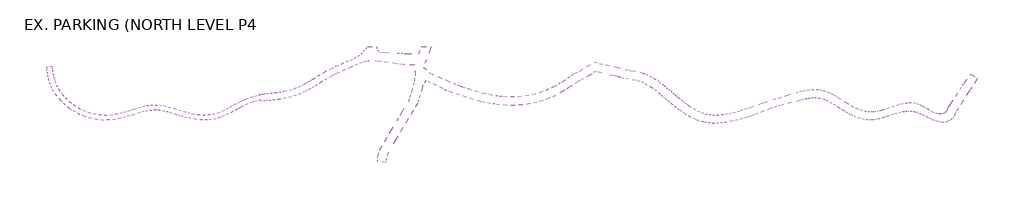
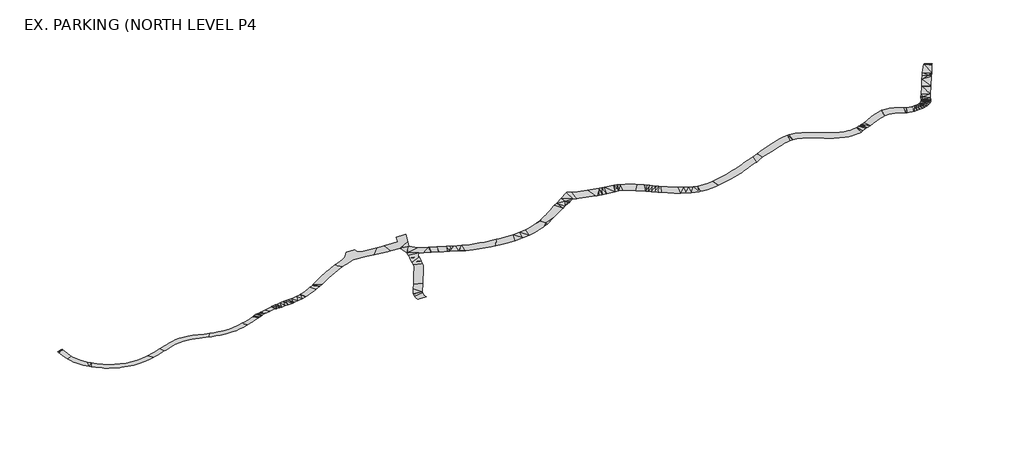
# One storey: 1 proxy.
"""IFC4 building model written with IfcOpenShell, lengths in millimetres."""

from ifc_helpers import new_model, si_unit, origin, place, context, project, spatial, triangles, element, save

model = new_model("IFC4")

# Units and contexts
model_context = context("Model", 3, world=origin())
ifc_project = project(units=[si_unit("LENGTHUNIT", "METRE", prefix="MILLI")], contexts=[model_context])

# Site, building, storey
site = spatial("IfcSite", under=ifc_project)
building = spatial("IfcBuilding", under=site)
storey = spatial("IfcBuildingStorey", under=building, Name="EX. PARKING (NORTH LEVEL P4", Elevation=287121.6)

# Proxy
placement = place(None, origin())
element("IfcBuildingElementProxy", 1, Name="Building Element Proxy", at=placement, inside=storey, context=model_context, shape_type="Tessellation", body=[
    triangles([(-40043.6302002, 180188.1829102, 292488.1375488), (-39385.3587524, 180359.8561523, 292484.3238281), (-38733.0264771, 180552.8862305, 292481.0310059), (-38059.2024902, 180767.291748, 292477.9056152), (-37790.3189026, 180852.8493164, 292482.0728027), (-36843.869696, 181140.8131348, 292496.3975098), (-36241.9715515, 181303.2590332, 292504.9737305), (-35633.1668518, 181437.539209, 292512.8430176), (-34903.441626, 181543.5606445, 292520.8425293), (-34166.4168457, 181566.6104004, 292526.7026367), (-33738.2406555, 181531.5427734, 292528.8234375), (-33431.4942627, 181506.4280273, 292527.651416), (-32708.0430725, 181363.7390625, 292522.5354492), (-32095.3153564, 181209.013623, 292517.2334473), (-31488.5895996, 181032.187207, 292511.3175293), (-30533.1455933, 180730.6614258, 292501.3646484), (-30001.2594543, 180569.0712891, 292495.9882324), (-29574.5203857, 180439.4233887, 292501.2344238), (-28908.4191833, 180258.5786133, 292509.717627), (-28235.3742187, 180105.6205078, 292518.703125), (-27212.7157104, 179937.6121582, 292533.2696777), (-26179.3811096, 179858.3611816, 292549.2873047), (-25431.0035339, 179857.2077637, 292561.6772461), (-24685.7629761, 179925.6873047, 292574.9973633), (-23950.1218323, 180063.1858887, 292589.1360352), (-23230.4611084, 180268.5128906, 292603.9816406), (-23048.2861816, 180339.3922852, 292608.0), (-22533.0199585, 180539.882373, 292516.0428223), (-21782.3122925, 180900.8649902, 292374.2096191), (-21049.2035522, 181296.3943359, 292230.7765137), (-20203.1365906, 181776.5510742, 292062.5263184), (-19915.5890259, 181929.9370605, 292006.4739258), (-19902.8479431, 181936.7459473, 292007.0506348), (-19796.0707397, 181993.6913086, 291998.4), (-19394.704541, 182207.7991699, 291936.5805176), (-19344.793634, 182234.4208008, 291927.2787598), (-18495.4640808, 182621.5227539, 291781.5760254), (-17613.0923584, 182925.8762695, 291649.1189941), (-17427.3420685, 182978.170752, 291623.5205566), (-16997.1962311, 183099.2424316, 291587.8948242), (-16377.768924, 183259.5303223, 291538.9117676), (-16291.9171875, 183192.6692871, 291546.5578125), (-16190.8652161, 183152.3368652, 291549.3483398), (-16079.7766479, 183133.5845215, 291548.2693359), (-15967.135849, 183131.5195312, 291544.4184082), (-15566.7079651, 183156.5970703, 291525.4986328), (-15166.8858582, 183189.9717773, 291505.2394043), (-14524.2774078, 183246.3590332, 291472.2367676), (-13882.6363403, 183312.8666016, 291437.6342285), (-13041.2063049, 183421.2878906, 291388.8), (-12922.0263702, 183436.635791, 291388.8), (-12904.9041595, 183439.7611816, 291388.8), (-12839.9127777, 183451.5744141, 291378.9959473), (-12749.3892334, 183468.0571289, 291374.1032227), (-11969.1240692, 183610.0577637, 291346.8490723), (-11026.4967224, 183832.6488281, 291305.8283203), (-10200.7261963, 184088.2053223, 291260.2869141), (-9395.1869934, 184401.7675781, 291205.6483887), (-8613.9451447, 184771.7356934, 291142.2290039), (-8186.9322556, 184995.7592285, 291104.0917969), (-7765.446936, 185230.0146973, 291064.373291), (-7719.1846436, 185256.9897949, 291059.8154297), (-7214.2480225, 185551.3346191, 290982.2945801), (-6668.0615936, 185881.0819336, 290896.457959), (-5929.6863144, 186333.9473145, 290779.2), (-5866.8314301, 186372.5124023, 290779.2), (-5652.568927, 186499.9836914, 290779.2), (-5059.0679443, 186853.115625, 290779.2), (-3981.0974052, 187446.0282715, 290779.2), (-3623.2881409, 187623.9522949, 290779.2), (-3259.0908943, 187805.076123, 290779.2), (-2879.5140633, 187993.8273926, 290779.2), (-1755.5605751, 188505.8147461, 290779.2), (-796.8303595, 188912.2085449, 290779.2), (-618.4324551, 188987.8318359, 290767.0146973), (246.1494194, 189337.2430664, 290708.7670898), (1114.3149776, 189677.6315918, 290650.7241211), (1480.2100857, 189836.7474609, 290625.572168), (1864.9841286, 189942.3224121, 290601.8712891), (2260.8461575, 189992.1984375, 290580.0679688), (4324.7714859, 189889.860498, 290482.5297363), (5526.055719, 189714.5781738, 290430.886377), (7054.4728912, 189491.540625, 290414.1246094), (7870.7434158, 189372.4223145, 290407.9482422), (8360.1652863, 189343.1031738, 290401.232373), (10079.8428772, 189240.0583008, 290407.8180176), (10218.0867645, 187459.4600098, 290533.8568359), (10084.1972626, 186720.1190918, 290586.281543), (10047.5774048, 186517.898877, 290595.7879395), (9870.3068298, 185885.5653809, 290629.7021484), (9504.5605499, 184561.2555176, 290700.3396973), (9488.9376663, 184507.2495117, 290703.2790527), (9280.0027451, 183784.8936035, 290779.2), (9124.4628204, 183247.1403809, 290874.5430176), (9034.6799286, 183096.0984375, 290903.7691406), (7566.8404541, 180626.8166016, 291388.8), (7074.4501602, 179798.4950684, 291554.7805664), (5735.400499, 177545.8697754, 291998.4), (4914.6825714, 176165.2098633, 292284.7453125), (4069.1144165, 174742.7478516, 292495.0022461), (3804.9854805, 173734.9209961, 292646.3976562), (3717.1780495, 173399.8716797, 292676.9818359), (3713.0611496, 172751.5019531, 292735.434082), (5223.9235794, 172652.1963867, 292737.7595215), (5196.7426804, 173341.252002, 292675.7726074), (5418.6663437, 174038.7536133, 292611.9439453), (5515.0610413, 174341.7118652, 292566.5513672), (5543.2046722, 174430.171582, 292549.6035645), (7137.7858292, 177082.9957031, 291998.4), (8029.187233, 178565.9749512, 291705.8225098), (8978.3194153, 180145.0041504, 291388.8), (9788.3874115, 181492.6800293, 291123.5882813), (10532.5373383, 182730.6881836, 290883.6215332), (10709.1195831, 183317.573291, 290779.2), (10945.9481506, 184104.7252441, 290696.1725098), (11349.3293427, 185453.2010742, 290554.0230469), (11377.1764801, 185583.7233398, 290540.6099121), (11432.3859009, 185842.4982422, 290527.8851074), (11907.2976105, 186618.0043945, 290469.2654297), (12625.2689026, 186295.252002, 290433.1001953), (13748.5294098, 185790.2967773, 290446.3272949), (14833.1922729, 185239.0001953, 290465.2098633), (15548.1463074, 184875.6177246, 290446.7737793), (16160.0659332, 184670.160498, 290422.0869141), (16464.4764221, 184567.9341797, 290399.5580566), (17788.1653931, 184123.4589844, 290270.152002), (18673.89505, 183831.848877, 290183.3293945), (18753.8448212, 183805.5249023, 290181.9527344), (18875.7304047, 183765.3971191, 290169.6), (20032.572583, 183384.5087402, 290169.6), (21496.5367126, 182991.9373535, 290169.6), (21998.3014343, 182889.3203613, 290169.6), (22981.4879333, 182688.272168, 290169.6), (23736.6976501, 182580.7252441, 290169.6), (24482.033551, 182474.573584, 290138.8483887), (25836.7787659, 182374.9517578, 290085.1214355), (27134.4879272, 182374.3192383, 290035.9151367), (27195.181897, 182374.3006348, 290035.1523926), (28550.0224548, 182472.5830078, 290015.0233887), (29894.1055298, 182669.3151855, 289991.9550293), (30935.1861694, 182900.1476074, 289971.6213867), (31689.1471252, 183119.9109375, 289955.250293), (31958.9539124, 183198.547998, 289945.799707), (32961.0276306, 183563.2141113, 289909.504248), (33269.1669617, 183698.7593262, 289897.9328613), (33937.1215393, 183992.6018555, 289838.8294922), (34018.3514648, 184040.6919434, 289832.5787109), (35660.600061, 185012.8000488, 289864.8), (36364.5059326, 185429.4629883, 289864.8), (36790.4845825, 185681.6150391, 289864.8), (36902.6358765, 185747.9923828, 289864.8), (38055.3841187, 186430.3507324, 289864.8), (38365.2559021, 186613.7813965, 289864.8), (38871.4761658, 186913.4282227, 289864.8), (39975.1785645, 187566.7464844, 289776.7123535), (40057.8060791, 187615.655127, 289675.8440918), (40318.2599487, 187769.8224609, 289762.7783203), (41008.8410522, 188178.6161133, 289769.0849121), (41651.9599365, 188022.8674805, 289693.5546387), (42010.8171021, 187935.970459, 289681.3879395), (44711.6382935, 187281.9080566, 289600.518457), (44979.1196411, 187217.1492188, 289595.2536621), (45271.4692383, 187146.3442383, 289592.5561523), (45813.2826782, 187015.1336426, 289612.1642578), (46542.5869995, 186890.1738281, 289641.7066406), (47956.8216064, 186605.9121094, 289696.4567871), (48512.5876831, 186494.197998, 289721.2552734), (49173.965918, 186209.0619141, 289742.1098145), (49176.0355591, 186208.1689453, 289742.1098145), (49822.0007813, 185884.6166016, 289739.2634766), (50634.9, 185387.493457, 289730.4826172), (50855.356311, 185228.0985352, 289726.6688965), (51407.0575195, 184829.2019531, 289755.3741211), (52133.8782715, 184213.0349121, 289791.1858887), (52461.7047729, 183915.7879395, 289806.9058594), (52784.9920166, 183613.6110352, 289822.2165527), (53193.8554321, 183270.7668457, 289842.4385742), (53604.6164063, 182930.1922852, 289862.8466309), (53643.8512207, 182898.1570313, 289864.8), (54096.046875, 182528.8586426, 289864.8), (54218.3696411, 182428.9577637, 289868.9299805), (54841.3595215, 181939.2574219, 289889.7845215), (55255.2319336, 181627.3322754, 289903.476709), (55675.58302, 181324.1879883, 289917.2433105), (56094.3249023, 181037.6380371, 289930.7680664), (56521.4941772, 180763.8314941, 289944.3486328), (57265.8022339, 180334.5181641, 289967.4728027), (58039.9828857, 179961.7595215, 289990.6899902), (58629.4538818, 179731.0015137, 290007.7680176), (59235.6494385, 179548.668457, 290024.6786133), (59413.6757812, 179510.4754395, 290029.4783203), (59854.602356, 179415.9137695, 290048.2864746), (60569.8377686, 179331.5282227, 290079.2055176), (61289.4822144, 179303.2508789, 290110.645459), (62009.1359619, 179331.2491699, 290142.4202637), (62618.4197021, 179402.7052734, 290169.6), (63265.5988037, 179478.5890137, 290169.6), (64506.834668, 179722.9833984, 290169.6), (65274.3320068, 179907.8651367, 290169.6), (66037.7179688, 180109.0621582, 290169.6), (66809.4755127, 180324.5094727, 290169.6), (67208.9069458, 180439.4791992, 290169.6), (67579.4889771, 180546.1331543, 290169.6), (68123.5162354, 180768.6870117, 290169.6), (68668.7480713, 180988.2643066, 290169.6), (69758.0490234, 181416.721875, 290169.6), (70856.475, 181821.2181152, 290169.6), (71091.9629517, 181899.1668457, 290169.6), (71957.5938354, 182185.7540039, 290296.6992188), (72415.4031006, 182317.0576172, 290364.4532227), (73072.5257813, 182505.529834, 290410.7387695), (74508.3079102, 182875.0514648, 290513.4487793), (75945.0713745, 183240.722168, 290616.3820312), (76527.9520752, 183377.7556641, 290658.5748047), (77115.1487915, 183494.9206055, 290701.8279785), (77549.6618042, 183562.190918, 290734.5515625), (77987.0630127, 183606.9881836, 290768.3541504), (78122.0780273, 183609.4252441, 290779.2), (78690.5549561, 183619.6757812, 290779.2), (79388.7914063, 183532.9089844, 290779.2), (80062.1549561, 183344.4925781, 290779.2), (80246.4599854, 183268.5530273, 290779.2), (80708.6643311, 183078.1274414, 290779.2), (81355.40625, 182740.3062012, 290779.2), (81981.9912598, 182366.4313477, 290779.2), (82744.828418, 181874.2381348, 290779.2), (83291.3625, 181523.9897461, 290779.2), (83509.1724609, 181384.4075684, 290779.2), (84029.2709473, 181068.0361816, 290779.2), (84561.2570801, 180772.0914551, 290779.2), (84910.7799316, 180609.0502441, 290779.2), (85377.7932861, 180391.2030762, 290779.2), (86229.9180176, 180098.4581543, 290779.2), (86231.2760742, 180098.1418945, 290779.2), (86861.1725098, 179949.7788574, 290779.2), (87505.1890137, 179873.4300293, 290779.2), (87924.2611084, 179871.4580566, 290779.2), (88153.7168701, 179870.3790527, 290779.2), (88390.7256592, 179896.2193359, 290779.2), (88798.4217041, 179940.6817383, 290779.2), (89191.9139648, 180022.2767578, 290779.2), (89505.9692139, 180087.407666, 290861.2229004), (90164.7569092, 180270.15, 291032.2450195), (90202.289502, 180280.5493652, 291034.8309082), (90347.5085449, 180326.8535156, 291044.2256836), (90785.4911133, 180466.5101074, 291026.5895508), (91049.5959229, 180550.7096191, 291015.9483398), (91167.960791, 180589.5537598, 291011.0184082), (91894.5862061, 180828.0322266, 291098.5479492), (92466.8396484, 180997.6962891, 291167.8460449), (93045.7531494, 181143.0455566, 291238.5394043), (93778.7688721, 181274.5352051, 291329.1571289), (94252.4608887, 181309.3423828, 291388.8), (94521.4770264, 181329.1179199, 291388.8), (95003.3080811, 181315.7419922, 291388.8), (95480.5812744, 181248.3600586, 291388.8), (95947.2783691, 181127.8278809, 291388.8), (96484.5106934, 180922.0916016, 291388.8), (96644.0451416, 180845.872998, 291388.8), (97003.5766846, 180674.0881348, 291388.8), (97177.9195313, 180582.8192871, 291388.8), (97524.1774658, 180401.5466309, 291388.8), (97775.9574463, 180271.2476074, 291388.8), (98046.0618896, 180131.4793945, 291435.4576172), (98448.01875, 179941.2770508, 291504.5696777), (98741.452002, 179823.1633301, 291554.6317383), (98860.5331055, 179775.2406738, 291587.3739258), (99267.9221924, 179645.5183594, 291695.6463867), (99685.8501709, 179555.3843262, 291802.0770996), (100134.7343994, 179473.2125977, 291914.7771973), (100500.5353271, 179481.8632324, 291998.4), (100590.9577148, 179484.0026367, 291998.4), (101035.4608154, 179587.3265625, 291998.4), (101176.7731201, 179652.6621094, 291998.4), (101449.6680908, 179778.8497559, 291998.4), (101816.296875, 180050.5727051, 291998.4), (102120.0271729, 180391.1658691, 291998.4), (102348.1806885, 180786.3975586, 291998.4), (102380.5880127, 180884.5869141, 291998.4), (102491.2138184, 181219.7478516, 292065.9121582), (102742.7612549, 181549.6253906, 292165.2363281), (102947.2510986, 181919.8725586, 292258.7748047), (103729.1940674, 183135.984375, 292591.4242676), (103758.0853271, 183180.9304688, 292608.0), (103835.4759521, 183301.2766113, 292646.3232422), (104821.397168, 184834.6155762, 293217.6), (104931.1300049, 185005.2842285, 293363.1166992), (105042.4534424, 185178.4271484, 293350.5965332), (105127.7226562, 185311.0330078, 293361.9074707), (105221.3634521, 185456.6613281, 293406.8907715), (106077.9065186, 186817.9921875, 293822.2886719), (106087.1989746, 186832.7633789, 293827.2), (106228.5856934, 187057.4752441, 293827.2), (105258.8402344, 187614.7807617, 293827.2), (105122.7369141, 187692.9899414, 293803.4433105), (105050.5831787, 187601.6838867, 293798.7924316), (103971.4676514, 186236.0928223, 293352.2708496), (103691.3917236, 185800.2868652, 293217.6), (103256.9438232, 185124.2537109, 292992.4974609), (102480.9446777, 183916.7739258, 292608.0), (101687.6535645, 182682.3748535, 292152.4929199), (101601.4634766, 182542.6624512, 292101.5006836), (101499.3859863, 182377.2027832, 292041.1136719), (101415.7724854, 182266.8095215, 291998.4), (101282.2178467, 182090.4667969, 291925.9951172), (101254.014917, 182053.2225586, 291922.1069824), (101183.1355225, 181757.9661621, 291916.1166504), (101110.6283203, 181620.932666, 291906.8893066), (101041.1162842, 181489.5732422, 291905.1033691), (100836.8589844, 181264.8799805, 291882.3140625), (100583.1814453, 181097.9878418, 291841.7956055), (100295.9896729, 180999.3706055, 291786.1338867), (100290.9667236, 180998.9613281, 291785.0176758), (99993.3011719, 180975.1860352, 291736.9461914), (99738.3585938, 180978.8695313, 291695.330127), (99485.8530762, 181014.1604004, 291653.4908203), (99074.7618896, 181117.2052734, 291584.5461914), (98678.6744385, 181267.9681641, 291517.1456543), (98289.0610107, 181459.4169434, 291450.0241699), (97936.394165, 181657.3955566, 291388.8), (97910.5259766, 181671.9062988, 291388.8), (97793.9005371, 181742.302002, 291388.8), (97674.8659424, 181814.1487793, 291388.8), (97408.4170898, 181974.9761719, 291388.8), (96902.8386475, 182272.2231445, 291388.8), (96648.8448486, 182408.1032227, 291388.8), (96389.0281494, 182532.5235352, 291388.8), (95859.8139404, 182726.5768066, 291388.8), (95306.6197998, 182834.7748535, 291388.8), (94587.6590332, 182858.3269043, 291388.8), (94511.4218262, 182850.6064453, 291388.8), (93871.9724854, 182785.8848145, 291308.6746582), (93151.6815674, 182638.3589355, 291220.0103027), (92442.9434326, 182442.7243652, 291133.8574219), (91608.8083008, 182173.1408203, 291033.3054199), (90779.3054443, 181889.6046387, 290933.6277832), (90235.1340088, 181715.8478027, 290867.9945801), (90068.5953369, 181669.134375, 290847.7539551), (89952.7140381, 181636.6154297, 290851.7723145), (89822.3964111, 181600.078125, 290856.2929688), (89685.1210693, 181561.5688477, 290846.8609863), (89533.5303223, 181525.2919922, 290835.773291), (89412.7283936, 181496.4007324, 290804.3147461), (89316.5854248, 181476.6251953, 290779.2), (89138.3916504, 181440.0134766, 290779.2), (89135.870874, 181439.6228027, 290779.2), (88587.5601563, 181356.6325195, 290779.2), (88357.0718994, 181346.5494141, 290779.2), (88030.9801758, 181332.2991211, 290779.2), (87474.9769043, 181367.292334, 290779.2), (86925.8476318, 181461.2214844, 290779.2), (86181.9023438, 181676.7618164, 290779.2), (85542.5460205, 181927.6674316, 290779.2), (85460.8951904, 181959.7026855, 290779.2), (84768.9095215, 182307.6256348, 290779.2), (84685.7611084, 182355.8831543, 290779.2), (83691.0125244, 182933.0944336, 290779.2), (83501.6101318, 183043.0040039, 290779.2), (82265.5460449, 183829.7466797, 290779.2), (81774.3202148, 184117.6174805, 290779.2), (81272.6857178, 184386.9033691, 290779.2), (80898.0202148, 184567.115625, 290779.2), (80514.9180176, 184728.6313477, 290779.2), (80060.8341064, 184882.5010254, 290779.2), (79913.5779785, 184932.4142578, 290779.2), (79292.4996094, 185064.3131836, 290779.2), (78805.0316895, 185109.1848633, 290779.2), (78660.2498291, 185122.523584, 290766.9774902), (77900.789209, 185106.0780762, 290706.032373), (77145.5515869, 185024.5016602, 290647.8405762), (76400.1087158, 184878.3524414, 290592.8299805), (75824.3345581, 184742.5653809, 290551.176709), (75252.5787598, 184590.7792969, 290510.4536133), (73300.8234741, 184013.5494141, 290373.5875488), (72222.3172119, 183669.2727539, 290298.8944336), (71361.8953125, 183394.6104492, 290172.2975098), (71343.477832, 183388.4154785, 290169.6), (69229.9975342, 182677.7797852, 290169.6), (68869.1265381, 182552.9687988, 290169.6), (67104.3691406, 181942.5688477, 290169.6), (66454.157666, 181737.0744141, 290169.6), (65802.3602417, 181536.6401367, 290169.6), (65157.6088989, 181347.6842285, 290169.6), (64508.7694336, 181173.2762695, 290169.6), (63873.11521, 181021.6576172, 290169.6), (63232.0148071, 180895.0048828, 290169.6), (62431.7938843, 180782.6210449, 290169.6), (62404.5629883, 180778.8073242, 290168.372168), (61570.4185547, 180729.9172852, 290131.462793), (60967.8553345, 180745.2837891, 290105.0830078), (60369.2407104, 180815.7911133, 290079.2055176), (59779.592981, 180940.8253418, 290054.0535645), (59104.6062744, 181160.160791, 290025.7018066), (58453.5901978, 181442.8040039, 289998.801123), (57708.5845093, 181845.0306152, 289968.4587891), (56994.1025391, 182299.2540527, 289939.772168), (56805.4442871, 182430.4460449, 289932.2749512), (56634.3338013, 182549.4527344, 289926.7125), (56280.192627, 182807.5393066, 289915.1039063), (55924.7445557, 183076.5461426, 289903.3278809), (55573.1706665, 183350.6131348, 289891.5890625), (55044.4959595, 183773.0245605, 289873.8227051), (54777.4890015, 183990.202002, 289864.8), (54519.5233521, 184200.0310547, 289864.8), (54159.4430054, 184518.1697754, 289864.8), (53797.3302246, 184833.9644531, 289864.8), (53434.5709717, 185146.298877, 289864.8), (53068.2165894, 185454.3916992, 289864.8), (52721.4005493, 185736.9977051, 289864.8), (52699.6297852, 185754.7268555, 289863.7209961), (52325.243335, 186047.7880371, 289844.7268066), (51947.2198975, 186329.5382813, 289825.2489258), (51827.3713989, 186413.775, 289818.9609375), (51561.4992554, 186600.6473145, 289823.2397461), (50905.8741577, 187020.6030762, 289831.425293), (50223.3576782, 187395.2778809, 289836.3180176), (49517.0705566, 187722.9416016, 289837.9365234), (49212.9263306, 187851.5663086, 289837.8993164), (49038.0253784, 187925.5524902, 289832.3182617), (48960.1185059, 187957.4203125, 289829.7509766), (48566.1751099, 188118.6197754, 289819.5004395), (48556.6408081, 188122.5265137, 289819.8166992), (46895.0817627, 188378.6783203, 289813.8635742), (46523.5835083, 188492.4202148, 289820.746875), (46138.1326172, 188549.4958008, 289819.016748), (46124.0869629, 188552.714209, 289819.1283691), (44166.425061, 189001.1705566, 289853.8425293), (42659.6565674, 189346.3401855, 289896.0166992), (41666.228833, 189573.9169922, 289927.7356934), (40767.153479, 189779.8765137, 290031.524707), (40761.2887207, 189776.4720703, 290031.4875), (39405.0180176, 188988.8922363, 289942.5068848), (38132.279425, 188249.8303711, 289885.2452637), (37557.4866028, 187984.0605469, 289865.1720703), (37550.5312134, 187979.2422363, 289864.8), (37272.2923828, 187786.7144531, 289864.8), (37213.4029541, 187745.9541504, 289864.8), (37140.1957947, 187695.7804688, 289864.8), (36868.2612305, 187509.3918457, 289864.8), (36307.9117126, 187130.7730957, 289864.8), (36176.2267273, 187041.7924805, 289864.8), (35475.9648193, 186586.6016602, 289864.8), (35122.6747559, 186366.3918457, 289864.8), (34765.9709473, 186151.7630859, 289864.8), (33814.0174255, 185626.232373, 289864.8), (33775.824408, 185605.1545898, 289864.8), (33670.6354797, 185547.0744141, 289866.1952637), (33379.1300171, 185415.1382812, 289870.9205566), (32530.7841248, 185031.1989258, 289894.026123), (31353.5955139, 184607.3736328, 289928.6472656), (30146.4947754, 184278.2774414, 289966.654248), (28917.0884216, 184045.9939453, 290007.7680176), (27673.1294678, 183911.9556152, 290051.765332), (26422.4592957, 183877.0368164, 290098.3671387), (25172.9588196, 183941.460791, 290147.2571777), (24622.2598755, 184003.8197754, 290169.6), (23929.3742615, 184082.3080078, 290169.6), (22695.1984314, 184290.0534668, 290169.6), (21890.5359192, 184470.6191895, 290169.6), (21474.0311096, 184564.083252, 290169.6), (20269.4278931, 184903.5974121, 290169.6), (19251.6748993, 185231.9680664, 290169.6), (19075.4472839, 185288.8204102, 290169.6), (18367.456778, 185543.6327637, 290169.6), (18124.2483673, 185631.1623047, 290169.6), (17894.9879425, 185713.6688965, 290191.7753906), (17776.7044647, 185760.1032715, 290203.0677246), (17332.5536682, 185934.4368164, 290234.3960449), (16730.9671326, 186170.5712402, 290255.7900879), (15576.9433868, 186652.1604492, 290294.3923828), (15299.6719391, 186773.8646484, 290303.1732422), (14262.9538239, 187228.8694336, 290292.0297363), (14053.4724243, 187320.8080078, 290302.6709473), (12537.2382294, 188005.7150391, 290378.9267578), (11482.4840057, 188953.3223145, 290415.4640625), (11988.7833344, 190222.3611328, 290337.4595215), (12877.0512085, 192448.8112793, 290179.4040527), (11208.2042358, 192423.3802734, 290181.8969238), (10746.7858887, 191148.9836426, 290272.3472168), (8270.5835449, 191276.2316895, 290264.3663086), (7724.3343292, 191304.3043945, 290272.1983887), (7029.5174377, 191340.004541, 290284.439502), (4173.6248978, 191486.7676758, 290419.1847656), (3627.2224937, 191824.3098633, 290431.2398438), (3576.6642426, 192444.8487305, 290406.2367188), (2056.6369652, 192477.0700195, 290479.9810547), (1725.6718472, 192054.1190918, 290515.1044922), (1366.6001598, 191654.7760254, 290550.5813965), (891.9951902, 191207.7335449, 290593.8717773), (367.2755834, 190820.7432129, 290636.9947266), (-200.0080134, 190499.3674805, 290679.2991211), (-926.3192579, 190170.7921875, 290729.7890625), (-1659.5389652, 189874.4195801, 290779.2), (-1665.3931137, 189872.0569336, 290779.2), (-2538.1142624, 189493.0847168, 290779.2), (-3402.38302, 189095.2113281, 290779.2), (-3474.5905312, 189059.306543, 290779.2), (-4193.3896797, 188701.7841797, 290779.2), (-4548.6839813, 188525.0507812, 290779.2), (-5372.4261429, 188071.9063477, 290779.2), (-5670.4294647, 187907.972168, 290779.2), (-6490.0143219, 187420.467041, 290779.2), (-7303.0135345, 186922.0416504, 290779.2), (-7498.5556686, 186803.9651367, 290779.2), (-7833.2736099, 186601.8751465, 290831.8107422), (-8112.0920563, 186439.2618164, 290874.6174316), (-8368.3572281, 186289.8197754, 290899.8810059), (-8764.541185, 186069.4797363, 290937.2368652), (-9165.9504044, 185858.8135254, 290973.0858398), (-9872.3439148, 185523.7456055, 291030.5334961), (-10511.6211731, 185274.6631348, 291073.9168945), (-10600.843634, 185239.9117676, 291081.1164551), (-11347.7375793, 185008.7630859, 291133.6527832), (-12229.7616486, 184801.129248, 291187.3053223), (-12495.25242, 184753.0019531, 291201.6114258), (-13121.3665283, 184639.5019043, 291296.1172852), (-13758.2323059, 184557.8882812, 291388.8), (-14020.1512024, 184524.3275391, 291388.8), (-14642.6062317, 184459.8105469, 291388.8), (-15266.0042267, 184405.153418, 291388.8), (-15662.0521454, 184376.0947266, 291388.8), (-16057.6989258, 184341.9944824, 291388.8), (-16342.3024841, 184275.8775879, 291388.8), (-16478.6546265, 184207.9189453, 291388.8), (-16603.8004761, 184145.5413574, 291403.5711914), (-17241.9859406, 183980.2863281, 291454.0611328), (-17876.5181396, 183801.506543, 291506.6160645), (-17961.2269226, 183772.2618164, 291514.5039551), (-18834.3678131, 183470.7918457, 291645.6401367), (-19003.7307312, 183393.6616699, 291674.6802246), (-19307.0412872, 183255.5491699, 291716.5009277), (-19756.596405, 183050.8546875, 291889.2345703), (-20038.2629333, 182900.7243164, 291998.4), (-20632.3941101, 182584.073877, 292057.391748), (-20932.2920837, 182414.0563477, 292087.2689941), (-21495.7390869, 182094.6525879, 292199.2807617), (-22189.429303, 181719.8661621, 292335.0678223), (-22899.7115295, 181377.5614746, 292469.347998), (-23680.4406189, 181083.9421875, 292607.5163086), (-23683.4729919, 181083.1980469, 292608.0), (-24490.1377075, 180883.5823242, 292591.7963379), (-25317.7034729, 180779.2538086, 292576.5972656), (-26151.7920959, 180772.3519043, 292562.6818359), (-27107.6058472, 180845.9474121, 292547.8734375), (-28053.5109009, 181001.7146484, 292534.4044922), (-28690.14646, 181146.487207, 292525.9026855), (-29320.177771, 181317.7511719, 292517.8845703), (-29398.5753113, 181341.5822754, 292516.9171875), (-30272.7800903, 181607.2962891, 292525.7538574), (-31222.2035339, 181907.0919434, 292535.6509277), (-32021.1524414, 182135.3384766, 292543.2969727), (-32830.272821, 182324.3687988, 292549.8640137), (-33534.873999, 182436.6224121, 292554.1056152), (-33569.1835327, 182442.0918457, 292553.9939941), (-34316.2728149, 182483.4288574, 292549.7709961), (-35063.6597534, 182447.9147461, 292543.5016113), (-35803.4657593, 182335.9587891, 292535.2788574), (-36454.1144165, 182192.7675293, 292526.8700684), (-37097.3867798, 182019.4199707, 292517.7357422), (-38051.8471252, 181729.3353516, 292503.2808105), (-38355.6099792, 181632.6528809, 292498.5741211), (-39002.4332886, 181426.786377, 292501.5692871), (-39626.1533569, 181241.9976562, 292504.7318848), (-40255.5567993, 181077.5983887, 292508.3595703), (-40983.963501, 180917.0128418, 292513.1406738), (-41173.040332, 180875.3409668, 292506.2015625), (-42105.992688, 180764.5198242, 292476.454541), (-43045.3260498, 180746.2139648, 292450.8933105), (-43981.8874878, 180820.5908203, 292429.7969238), (-44906.5566284, 180986.943457, 292413.351416), (-45810.3154175, 181243.6533691, 292401.7242188), (-45813.8593872, 181245.0486328, 292401.7056152), (-46684.369043, 181588.1904785, 292394.1525879), (-47520.2017456, 182017.2247559, 292391.5666992), (-48309.6605347, 182526.5890137, 292393.9665527), (-48332.4963501, 182544.7460449, 292394.2083984), (-49045.0621582, 183111.2789062, 292409.5749023), (-49719.2396118, 183765.6203613, 292429.9643555), (-50150.2830688, 184275.7287598, 292447.5260742), (-50325.6212036, 184483.2509766, 292448.1585938), (-50858.3049683, 185257.1572266, 292456.9952637), (-51191.8706543, 185882.7004395, 292469.310791), (-51458.849707, 186539.441748, 292486.6678711), (-51568.2709351, 186916.6094238, 292499.002002), (-51656.3771851, 187220.3118164, 292515.3544922), (-51783.2717651, 187835.5300781, 292550.85), (-51881.3960083, 188455.9759277, 292588.0570313), (-51926.6351074, 188776.9981934, 292607.5535156), (-51927.574585, 188784.2535645, 292608.0), (-51960.1214355, 189036.2381836, 292608.0), (-51968.1628052, 189098.5041504, 292608.0), (-52242.3646729, 189062.5621582, 292608.0), (-52874.8051392, 188979.6462891, 292530.2000977), (-52868.0009033, 188926.9425293, 292530.4419434), (-52832.6356201, 188652.9313477, 292546.6456055), (-52820.3200928, 188565.4762207, 292551.9476074), (-52786.6988892, 188326.7187012, 292537.4368652), (-52710.7035278, 187830.7675781, 292507.5968262), (-52618.9137817, 187337.4767578, 292478.6683594), (-52460.0630127, 186670.7639648, 292441.1636719), (-52434.6552612, 186594.5081543, 292437.2197266), (-52243.4390259, 186020.5338867, 292419.7882324), (-51970.7021851, 185391.7536621, 292404.0682617), (-51643.9500366, 184789.2788086, 292392.496875), (-51062.064624, 183941.0515137, 292382.7114258), (-50399.463208, 183154.2530273, 292380.2185547), (-50195.7640137, 182955.8465332, 292381.5394043), (-49662.5919067, 182436.547998, 292365.3171387), (-48858.6084229, 181794.9127441, 292347.8484375), (-48601.3729614, 181628.2438477, 292344.1835449), (-47995.3401855, 181235.5794434, 292342.2487793), (-47081.1773804, 180763.9989258, 292344.9834961), (-46400.2282471, 180493.9130859, 292350.787793), (-46125.0078369, 180384.7476562, 292352.8713867), (-45136.1379639, 180101.5277344, 292365.4845703), (-44124.1764771, 179917.073877, 292383.3625488), (-43098.973938, 179833.190625, 292406.3564941), (-42070.4878784, 179850.6779297, 292434.205957), (-41048.7316406, 179969.4055664, 292466.6690918), (-40397.6876587, 180111.1085449, 292490.4815918), (-52236.2766724, 188996.7243164, 292608.0), (-19935.0552795, 182023.2708984, 291998.4), (18783.1988434, 183867.9396973, 290169.6), (33975.1075928, 184397.7120117, 289864.8), (33465.0364014, 185294.0852051, 289864.8), (39840.3216797, 187664.470752, 289864.8), (39651.3797241, 188087.5891113, 289864.8), (101726.1256348, 182087.9739258, 291998.4), (104584.6767334, 185327.925, 293217.6)], [[616, 570, 615], [614, 615, 571], [569, 616, 617], [567, 618, 619], [564, 620, 1], [619, 620, 565], [618, 568, 617], [564, 1, 2], [569, 570, 616], [617, 568, 569], [612, 613, 573], [572, 613, 614], [615, 570, 571], [619, 566, 567], [567, 568, 618], [565, 566, 619], [620, 564, 565], [563, 2, 3], [2, 563, 564], [546, 18, 19], [17, 18, 548], [17, 549, 16], [19, 20, 545], [543, 22, 23], [21, 22, 543], [23, 24, 542], [20, 21, 544], [541, 24, 25], [561, 3, 4], [549, 15, 16], [547, 18, 546], [560, 4, 5], [542, 543, 23], [546, 19, 545], [542, 24, 541], [20, 544, 545], [21, 543, 544], [25, 540, 541], [560, 5, 6], [573, 574, 612], [613, 572, 573], [574, 611, 612], [611, 574, 610], [572, 614, 571], [6, 559, 560], [4, 560, 561], [3, 562, 563], [607, 608, 577], [607, 578, 606], [578, 607, 577], [606, 578, 579], [608, 609, 577], [610, 575, 609], [610, 574, 575], [575, 576, 609], [609, 576, 577], [562, 3, 561], [7, 8, 558], [554, 10, 11], [9, 10, 555], [8, 9, 556], [548, 549, 17], [548, 18, 547], [552, 12, 13], [14, 551, 13], [11, 12, 553], [6, 7, 559], [15, 549, 550], [8, 556, 557], [9, 555, 556], [555, 10, 554], [558, 8, 557], [13, 551, 552], [11, 553, 554], [553, 12, 552], [14, 550, 551], [15, 550, 14], [7, 558, 559], [26, 27, 539], [539, 540, 26], [27, 538, 539], [26, 540, 25], [537, 538, 29], [29, 538, 28], [537, 29, 30], [28, 538, 27], [30, 536, 537], [30, 31, 535], [535, 536, 30], [534, 535, 31], [622, 534, 31], [31, 32, 622], [32, 33, 622], [533, 622, 35], [34, 35, 622], [33, 34, 622], [36, 532, 35], [102, 105, 101], [102, 103, 105], [101, 106, 100], [99, 100, 108], [106, 101, 105], [108, 109, 99], [107, 108, 100], [106, 107, 100], [103, 104, 105], [99, 109, 98], [98, 110, 97], [98, 109, 110], [97, 111, 96], [111, 97, 110], [96, 111, 112], [136, 455, 135], [138, 453, 137], [112, 95, 96], [453, 138, 139], [622, 533, 534], [531, 36, 37], [532, 533, 35], [532, 36, 531], [38, 528, 37], [527, 528, 38], [41, 43, 44], [41, 44, 45], [39, 527, 38], [530, 37, 529], [530, 531, 37], [40, 526, 39], [37, 528, 529], [525, 40, 41], [45, 46, 521], [519, 47, 48], [46, 47, 520], [43, 41, 42], [45, 522, 41], [49, 518, 48], [113, 94, 95], [114, 94, 113], [130, 131, 460], [134, 135, 456], [133, 134, 457], [137, 454, 136], [133, 458, 132], [139, 140, 452], [113, 95, 112], [131, 132, 459], [516, 50, 51], [516, 52, 53], [516, 51, 52], [54, 516, 53], [115, 93, 114], [515, 54, 55], [129, 130, 461], [93, 94, 114], [49, 50, 517], [141, 451, 140], [606, 579, 605], [46, 520, 521], [605, 579, 580], [525, 41, 524], [41, 523, 524], [41, 522, 523], [521, 522, 45], [40, 525, 526], [604, 581, 603], [604, 605, 581], [602, 603, 582], [582, 603, 581], [582, 583, 602], [519, 520, 47], [517, 518, 49], [519, 48, 518], [605, 580, 581], [39, 526, 527], [54, 515, 516], [516, 517, 50], [515, 55, 514], [514, 55, 513], [513, 56, 512], [511, 57, 58], [59, 60, 509], [59, 510, 58], [512, 56, 57], [508, 60, 61], [511, 58, 510], [510, 59, 509], [509, 60, 508], [512, 57, 511], [507, 62, 506], [64, 504, 63], [62, 63, 506], [507, 508, 61], [62, 507, 61], [56, 513, 55], [65, 503, 64], [598, 599, 586], [587, 597, 598], [585, 599, 600], [584, 585, 600], [584, 601, 583], [587, 598, 586], [586, 599, 585], [601, 584, 600], [597, 587, 596], [621, 594, 595], [592, 593, 621], [594, 621, 593], [595, 596, 621], [588, 589, 621], [590, 591, 592], [590, 621, 589], [590, 592, 621], [621, 596, 587], [587, 588, 621], [64, 503, 504], [504, 505, 63], [63, 505, 506], [66, 67, 502], [68, 501, 67], [67, 501, 502], [500, 68, 69], [502, 503, 65], [66, 502, 65], [68, 500, 501], [70, 498, 69], [499, 500, 69], [69, 498, 499], [70, 71, 498], [71, 72, 497], [72, 496, 497], [496, 72, 495], [72, 73, 495], [71, 497, 498], [601, 602, 583], [92, 115, 91], [90, 91, 116], [116, 91, 115], [469, 123, 124], [470, 122, 123], [124, 125, 469], [90, 116, 117], [90, 118, 89], [118, 90, 117], [89, 118, 88], [474, 119, 120], [88, 118, 119], [468, 469, 125], [468, 125, 467], [122, 471, 121], [470, 123, 469], [120, 121, 473], [122, 470, 471], [125, 126, 467], [127, 128, 623], [463, 126, 623], [623, 126, 127], [129, 623, 128], [459, 132, 458], [457, 458, 133], [453, 454, 137], [457, 134, 456], [453, 139, 452], [456, 135, 455], [136, 454, 455], [463, 623, 462], [465, 466, 126], [464, 465, 126], [463, 464, 126], [462, 129, 461], [460, 461, 130], [131, 459, 460], [129, 462, 623], [452, 140, 451], [126, 466, 467], [115, 92, 93], [73, 74, 494], [74, 493, 494], [492, 493, 74], [75, 492, 74], [73, 494, 495], [490, 76, 77], [489, 78, 79], [490, 77, 78], [75, 76, 492], [488, 79, 80], [492, 76, 491], [490, 78, 489], [489, 79, 488], [76, 490, 491], [487, 488, 80], [484, 486, 487], [486, 484, 485], [484, 487, 80], [80, 483, 484], [80, 81, 483], [88, 119, 87], [85, 86, 480], [84, 85, 480], [87, 475, 86], [473, 121, 472], [474, 475, 87], [87, 119, 474], [474, 120, 473], [121, 471, 472], [86, 475, 476], [82, 83, 482], [482, 483, 82], [482, 83, 481], [82, 483, 81], [84, 481, 83], [479, 476, 478], [481, 84, 480], [478, 476, 477], [86, 479, 480], [86, 476, 479], [141, 450, 451], [191, 392, 190], [190, 393, 189], [392, 191, 192], [389, 194, 195], [196, 388, 195], [194, 390, 193], [192, 193, 391], [387, 196, 197], [394, 187, 188], [186, 187, 395], [393, 188, 189], [393, 190, 392], [391, 392, 192], [391, 193, 390], [389, 195, 388], [388, 196, 387], [194, 389, 390], [197, 386, 387], [197, 385, 386], [385, 198, 384], [351, 234, 235], [352, 232, 233], [349, 237, 238], [239, 349, 238], [236, 237, 349], [350, 235, 236], [234, 351, 233], [383, 199, 200], [202, 381, 201], [200, 201, 382], [203, 380, 202], [198, 199, 384], [353, 231, 232], [380, 203, 204], [230, 231, 354], [380, 204, 205], [239, 240, 347], [198, 385, 197], [397, 184, 185], [395, 396, 186], [183, 184, 399], [394, 395, 187], [394, 188, 393], [200, 382, 383], [383, 384, 199], [201, 381, 382], [205, 379, 380], [182, 183, 400], [185, 396, 397], [402, 180, 181], [182, 401, 181], [397, 398, 184], [380, 381, 202], [206, 379, 205], [207, 378, 206], [186, 396, 185], [207, 208, 377], [351, 352, 233], [235, 350, 351], [228, 357, 227], [229, 356, 228], [352, 353, 232], [350, 236, 349], [241, 346, 347], [242, 345, 346], [239, 348, 349], [239, 347, 348], [209, 210, 375], [225, 226, 358], [208, 209, 377], [229, 230, 355], [227, 357, 226], [356, 229, 355], [354, 355, 230], [354, 231, 353], [356, 357, 228], [375, 210, 211], [241, 347, 240], [345, 242, 344], [243, 342, 242], [244, 340, 243], [318, 264, 265], [264, 318, 263], [262, 263, 319], [244, 245, 340], [337, 246, 247], [249, 250, 335], [336, 247, 248], [245, 246, 337], [262, 320, 261], [324, 259, 260], [324, 258, 259], [322, 260, 261], [317, 265, 266], [336, 248, 249], [269, 270, 314], [268, 316, 267], [268, 269, 315], [271, 313, 270], [312, 272, 273], [311, 274, 275], [311, 273, 274], [312, 271, 272], [310, 311, 275], [315, 269, 314], [316, 317, 267], [270, 313, 314], [316, 268, 315], [310, 276, 277], [311, 312, 273], [278, 309, 277], [309, 278, 279], [312, 313, 271], [275, 276, 310], [267, 317, 266], [317, 318, 265], [243, 341, 342], [344, 242, 343], [343, 242, 342], [333, 334, 251], [334, 250, 251], [256, 257, 327], [253, 332, 252], [252, 333, 251], [255, 256, 329], [255, 330, 254], [243, 340, 341], [245, 338, 339], [245, 337, 338], [339, 340, 245], [249, 335, 336], [331, 253, 254], [335, 250, 334], [247, 336, 337], [326, 327, 257], [257, 325, 326], [320, 262, 319], [260, 323, 324], [261, 321, 322], [261, 320, 321], [277, 309, 310], [319, 263, 318], [308, 309, 279], [307, 308, 280], [628, 280, 281], [257, 258, 325], [307, 628, 306], [324, 325, 258], [303, 628, 302], [628, 305, 306], [628, 304, 305], [304, 628, 303], [628, 282, 301], [307, 280, 628], [281, 282, 628], [260, 322, 323], [308, 279, 280], [242, 346, 241], [327, 328, 256], [142, 143, 450], [449, 450, 144], [144, 450, 143], [142, 450, 141], [145, 146, 624], [624, 147, 148], [147, 624, 146], [449, 145, 624], [449, 144, 145], [445, 624, 148], [449, 625, 448], [449, 624, 625], [447, 448, 625], [446, 447, 625], [624, 446, 625], [148, 444, 445], [446, 624, 445], [444, 148, 443], [442, 443, 149], [149, 150, 442], [148, 149, 443], [414, 171, 172], [441, 150, 151], [415, 170, 171], [409, 173, 174], [173, 410, 411], [409, 410, 173], [172, 173, 412], [174, 175, 407], [412, 173, 411], [423, 165, 166], [436, 152, 153], [166, 167, 421], [151, 152, 439], [417, 168, 169], [169, 170, 416], [172, 413, 414], [172, 412, 413], [167, 168, 417], [171, 414, 415], [441, 442, 150], [441, 151, 440], [439, 152, 438], [438, 152, 437], [151, 439, 440], [154, 155, 626], [626, 156, 157], [156, 626, 155], [627, 154, 626], [152, 436, 437], [154, 433, 153], [627, 626, 157], [433, 434, 153], [435, 153, 434], [432, 433, 627], [153, 435, 436], [157, 158, 627], [154, 627, 433], [430, 431, 429], [431, 432, 158], [158, 429, 431], [158, 159, 429], [158, 432, 627], [426, 163, 164], [426, 161, 162], [427, 160, 161], [162, 163, 426], [418, 167, 417], [420, 167, 419], [418, 419, 167], [417, 169, 416], [167, 420, 421], [427, 161, 426], [428, 429, 159], [160, 427, 428], [426, 164, 425], [166, 422, 423], [424, 425, 164], [165, 423, 424], [166, 421, 422], [165, 424, 164], [428, 159, 160], [415, 416, 170], [400, 401, 182], [183, 399, 400], [181, 401, 402], [178, 179, 404], [378, 207, 377], [378, 379, 206], [374, 211, 212], [374, 375, 211], [176, 177, 405], [404, 177, 178], [180, 402, 403], [209, 376, 377], [372, 213, 214], [216, 370, 215], [214, 215, 371], [217, 369, 216], [376, 209, 375], [213, 373, 212], [357, 358, 226], [331, 332, 253], [333, 252, 332], [358, 359, 225], [302, 628, 301], [254, 330, 331], [255, 329, 330], [328, 329, 256], [362, 221, 222], [219, 220, 366], [369, 217, 218], [220, 221, 364], [225, 359, 224], [224, 360, 223], [283, 284, 300], [301, 282, 300], [223, 362, 222], [285, 300, 284], [283, 300, 282], [368, 218, 219], [403, 404, 179], [176, 405, 406], [407, 175, 406], [179, 180, 403], [372, 373, 213], [371, 215, 370], [214, 371, 372], [370, 216, 369], [374, 212, 373], [364, 221, 363], [408, 409, 174], [407, 408, 174], [365, 366, 220], [368, 369, 218], [219, 366, 367], [367, 368, 219], [365, 220, 364], [405, 177, 404], [362, 363, 221], [362, 223, 361], [360, 361, 223], [299, 286, 629], [288, 629, 287], [286, 287, 629], [299, 300, 285], [285, 286, 299], [289, 629, 288], [298, 629, 297], [629, 298, 299], [290, 296, 297], [294, 295, 296], [290, 297, 629], [291, 294, 296], [294, 292, 293], [292, 294, 291], [291, 296, 290], [629, 289, 290], [359, 360, 224], [176, 406, 175], [398, 399, 184]], closed=False),
])

save(model, "model.ifc")
